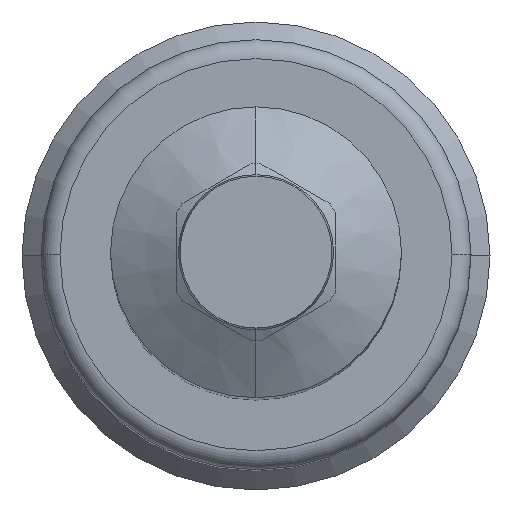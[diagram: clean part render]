
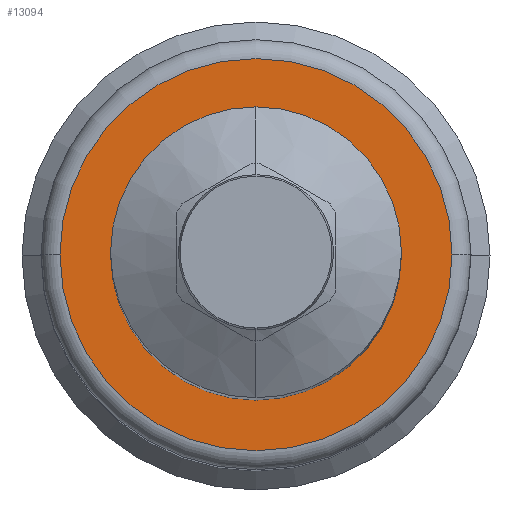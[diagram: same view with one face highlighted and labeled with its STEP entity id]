
A CAD part, top view. The second image highlights one B-rep face of the part: STEP entity #13094.
In plain terms, the highlighted planar face has unit normal (0, 0, 1).
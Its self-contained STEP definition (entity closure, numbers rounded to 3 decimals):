
#4187 = AXIS2_PLACEMENT_3D ( 'NONE', #7970, #7971, #7972 ) ;
#4195 = AXIS2_PLACEMENT_3D ( 'NONE', #7994, #7995, #7996 ) ;
#4196 = AXIS2_PLACEMENT_3D ( 'NONE', #8001, #8002, #8003 ) ;
#4204 = AXIS2_PLACEMENT_3D ( 'NONE', #8045, #8046, #8047 ) ;
#4310 = AXIS2_PLACEMENT_3D ( 'NONE', #8468, #8469, #8470 ) ;
#7324 = CIRCLE ( 'NONE', #4187, 31. ) ;
#7333 = CIRCLE ( 'NONE', #4195, 23. ) ;
#7338 = CIRCLE ( 'NONE', #4196, 23. ) ;
#7365 = CIRCLE ( 'NONE', #4204, 31. ) ;
#7620 = FACE_BOUND ( 'NONE', #9366, .T. ) ;
#7621 = FACE_OUTER_BOUND ( 'NONE', #9367, .T. ) ;
#7970 = CARTESIAN_POINT ( 'NONE',  ( 0., 0., 172. ) ) ;
#7971 = DIRECTION ( 'NONE',  ( 0., 0., 1. ) ) ;
#7972 = DIRECTION ( 'NONE',  ( 1., 0., 0. ) ) ;
#7994 = CARTESIAN_POINT ( 'NONE',  ( 0., 0., 172. ) ) ;
#7995 = DIRECTION ( 'NONE',  ( 0., 0., 1. ) ) ;
#7996 = DIRECTION ( 'NONE',  ( 1., 0., 0. ) ) ;
#8001 = CARTESIAN_POINT ( 'NONE',  ( 0., 0., 172. ) ) ;
#8002 = DIRECTION ( 'NONE',  ( 0., 0., 1. ) ) ;
#8003 = DIRECTION ( 'NONE',  ( 1., 0., 0. ) ) ;
#8045 = CARTESIAN_POINT ( 'NONE',  ( 0., 0., 172. ) ) ;
#8046 = DIRECTION ( 'NONE',  ( 0., 0., 1. ) ) ;
#8047 = DIRECTION ( 'NONE',  ( 1., 0., 0. ) ) ;
#8467 = PLANE ( 'NONE',  #4310 ) ;
#8468 = CARTESIAN_POINT ( 'NONE',  ( -31., 0., 172. ) ) ;
#8469 = DIRECTION ( 'NONE',  ( 0., 0., -1. ) ) ;
#8470 = DIRECTION ( 'NONE',  ( -1., 0., 0. ) ) ;
#8890 = CARTESIAN_POINT ( 'NONE',  ( 0., 23., 172. ) ) ;
#8891 = CARTESIAN_POINT ( 'NONE',  ( 0., -23., 172. ) ) ;
#8908 = CARTESIAN_POINT ( 'NONE',  ( -31., 0., 172. ) ) ;
#8909 = CARTESIAN_POINT ( 'NONE',  ( 31., 0., 172. ) ) ;
#9366 = EDGE_LOOP ( 'NONE', ( #9569, #9570 ) ) ;
#9367 = EDGE_LOOP ( 'NONE', ( #9571, #9572 ) ) ;
#9569 = ORIENTED_EDGE ( 'NONE', *, *, #12584, .F. ) ;
#9570 = ORIENTED_EDGE ( 'NONE', *, *, #12581, .F. ) ;
#9571 = ORIENTED_EDGE ( 'NONE', *, *, #12602, .T. ) ;
#9572 = ORIENTED_EDGE ( 'NONE', *, *, #12573, .T. ) ;
#12573 = EDGE_CURVE ( 'NONE', #18159, #18160, #7324, .T. ) ;
#12581 = EDGE_CURVE ( 'NONE', #18142, #18141, #7333, .T. ) ;
#12584 = EDGE_CURVE ( 'NONE', #18141, #18142, #7338, .T. ) ;
#12602 = EDGE_CURVE ( 'NONE', #18160, #18159, #7365, .T. ) ;
#13094 = ADVANCED_FACE ( 'NONE', ( #7620, #7621 ), #8467, .F. ) ;
#18141 = VERTEX_POINT ( 'NONE', #8890 ) ;
#18142 = VERTEX_POINT ( 'NONE', #8891 ) ;
#18159 = VERTEX_POINT ( 'NONE', #8908 ) ;
#18160 = VERTEX_POINT ( 'NONE', #8909 ) ;
